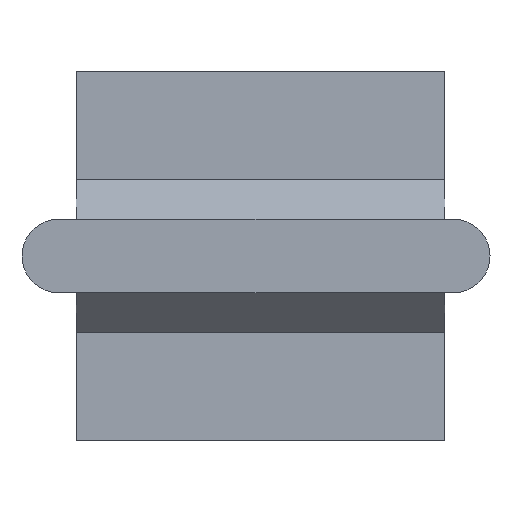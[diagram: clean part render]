
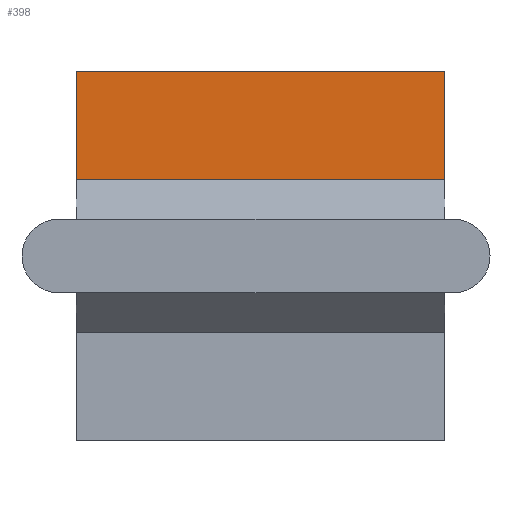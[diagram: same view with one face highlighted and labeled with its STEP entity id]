
A CAD part, front view. The second image highlights one B-rep face of the part: STEP entity #398.
In plain terms, the highlighted planar face has unit normal (0, -1, 0).
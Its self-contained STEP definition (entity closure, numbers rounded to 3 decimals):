
#6 = ORIENTED_EDGE ( 'NONE', *, *, #166, .F. ) ;
#12 = PLANE ( 'NONE',  #582 ) ;
#39 = EDGE_LOOP ( 'NONE', ( #323, #618, #6, #89 ) ) ;
#76 = DIRECTION ( 'NONE',  ( 0., 0., -1. ) ) ;
#89 = ORIENTED_EDGE ( 'NONE', *, *, #508, .F. ) ;
#121 = DIRECTION ( 'NONE',  ( 0., -1., 0. ) ) ;
#166 = EDGE_CURVE ( 'NONE', #191, #512, #429, .T. ) ;
#171 = CARTESIAN_POINT ( 'NONE',  ( 7.5, -1.6, 3.1 ) ) ;
#191 = VERTEX_POINT ( 'NONE', #194 ) ;
#194 = CARTESIAN_POINT ( 'NONE',  ( -7.5, -1.6, 7.5 ) ) ;
#202 = CARTESIAN_POINT ( 'NONE',  ( -7.5, -1.6, 3.1 ) ) ;
#230 = CARTESIAN_POINT ( 'NONE',  ( 7.5, -1.6, -7.5 ) ) ;
#263 = CARTESIAN_POINT ( 'NONE',  ( 0., -1.6, 0. ) ) ;
#271 = VECTOR ( 'NONE', #497, 1000. ) ;
#281 = VECTOR ( 'NONE', #527, 1000. ) ;
#298 = VERTEX_POINT ( 'NONE', #202 ) ;
#313 = LINE ( 'NONE', #500, #271 ) ;
#323 = ORIENTED_EDGE ( 'NONE', *, *, #385, .F. ) ;
#340 = CARTESIAN_POINT ( 'NONE',  ( 7.5, -1.6, 7.5 ) ) ;
#385 = EDGE_CURVE ( 'NONE', #524, #298, #313, .T. ) ;
#398 = ADVANCED_FACE ( 'NONE', ( #541 ), #12, .T. ) ;
#416 = DIRECTION ( 'NONE',  ( 0., 0., 1. ) ) ;
#429 = LINE ( 'NONE', #340, #281 ) ;
#431 = VECTOR ( 'NONE', #564, 1000. ) ;
#497 = DIRECTION ( 'NONE',  ( -1., 0., 0. ) ) ;
#500 = CARTESIAN_POINT ( 'NONE',  ( 9.763, -1.6, 3.1 ) ) ;
#505 = CARTESIAN_POINT ( 'NONE',  ( -7.5, -1.6, -7.5 ) ) ;
#508 = EDGE_CURVE ( 'NONE', #298, #191, #568, .T. ) ;
#509 = EDGE_CURVE ( 'NONE', #512, #524, #605, .T. ) ;
#510 = CARTESIAN_POINT ( 'NONE',  ( 7.5, -1.6, 7.5 ) ) ;
#512 = VERTEX_POINT ( 'NONE', #510 ) ;
#524 = VERTEX_POINT ( 'NONE', #171 ) ;
#527 = DIRECTION ( 'NONE',  ( 1., 0., 0. ) ) ;
#535 = VECTOR ( 'NONE', #416, 1000. ) ;
#541 = FACE_OUTER_BOUND ( 'NONE', #39, .T. ) ;
#564 = DIRECTION ( 'NONE',  ( 0., 0., -1. ) ) ;
#568 = LINE ( 'NONE', #505, #535 ) ;
#582 = AXIS2_PLACEMENT_3D ( 'NONE', #263, #121, #76 ) ;
#605 = LINE ( 'NONE', #230, #431 ) ;
#618 = ORIENTED_EDGE ( 'NONE', *, *, #509, .F. ) ;
